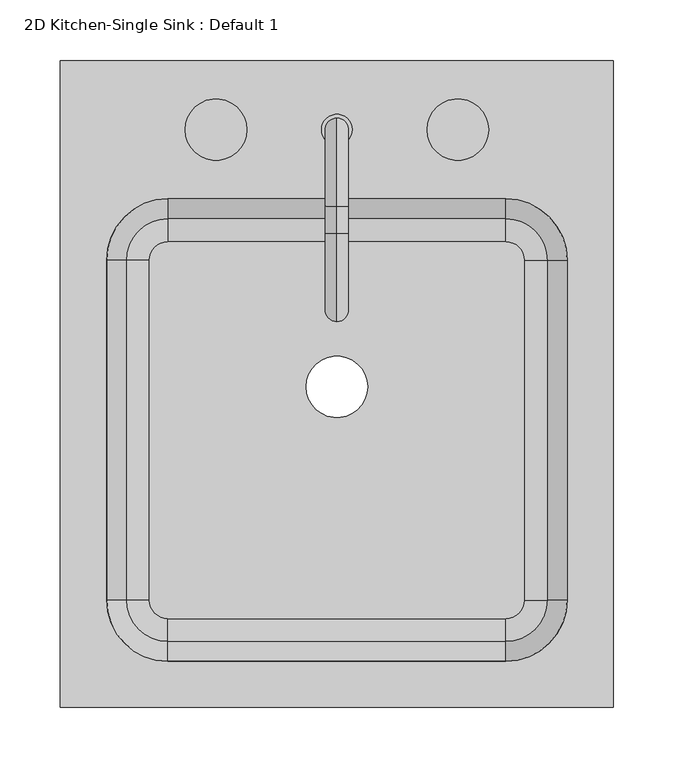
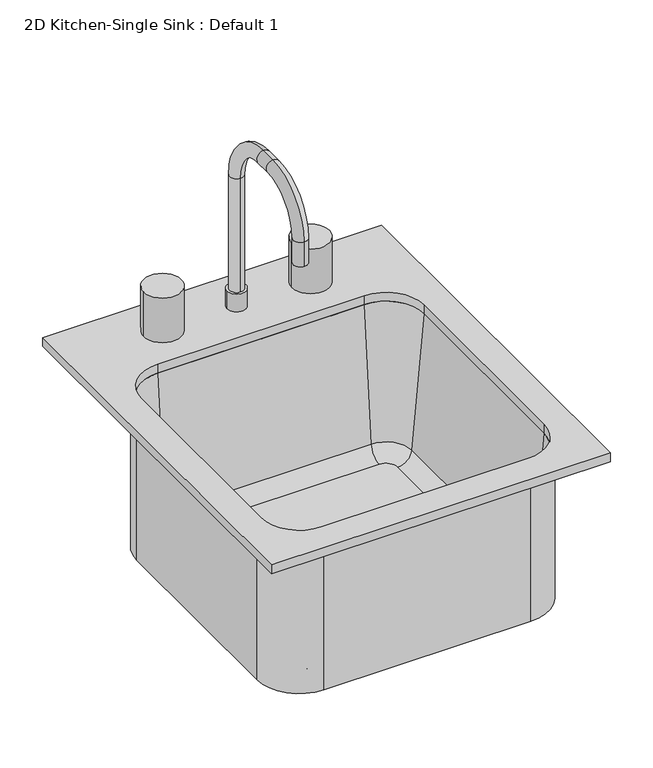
"""IFC4 building model written with IfcOpenShell, lengths in millimetres: flow terminal geometry, 2D Kitchen-Single Sink : Default 1."""

from ifc_helpers import new_model, si_unit, point, frame, frame_2d, origin, place, context, project, spatial, polyline, circle_curve, ellipse_curve, trimmed, segment, composite_curve, outline, extrude, source, transform, mapped, element, save
from ifc_brep_helpers import plane_surface, cylinder_surface, revolved_surface, advanced_brep


def flow_terminal_2d_kitchen_single_sink_default_1_6e0e1d67(model_context):
    return source(origin(), model_context, "Body", "SolidModel", [
        advanced_brep(
        [(212.5392406, 104.7454011, 546.1), (155.3892406, 161.8954011, 546.1), (155.3892406, 161.8954011, 762.0), (212.5392406, 104.7454011, 762.0), (212.5392406, -176.2545989, 546.1), (155.3892406, -233.4045989, 546.1), (-124.0107594, -233.4045989, 546.1), (-181.1607594, -176.2545989, 546.1), (-181.1607594, 104.7454011, 546.1), (-124.0107594, 161.8954011, 546.1), (-9.7107594, 0.0, 546.1), (41.0892406, 0.0, 546.1), (170.6776588, 104.7454011, 555.625), (155.3892406, 120.0338193, 555.625), (-124.0107594, 120.0338193, 555.625), (-139.2991776, 104.7454011, 555.625), (-139.2991776, -176.2545989, 555.625), (-124.0107594, -191.5430171, 555.625), (155.3892406, -191.5430171, 555.625), (170.6776588, -176.2545989, 555.625), (-9.7107594, 0.0, 555.625), (41.0892406, 0.0, 555.625), (189.6551678, 104.7454011, 573.0146831), (155.3892406, 139.0113283, 573.0146831), (206.1892406, 104.7454011, 762.0), (155.3892406, 155.5454011, 762.0), (212.5392406, -176.2545989, 762.0), (189.6551678, -176.2545989, 573.0146831), (206.1892406, -176.2545989, 762.0), (155.3892406, -233.4045989, 762.0), (155.3892406, -210.5205261, 573.0146831), (155.3892406, -227.0545989, 762.0), (-124.0107594, -233.4045989, 762.0), (-124.0107594, -210.5205261, 573.0146831), (-124.0107594, -227.0545989, 762.0), (-181.1607594, -176.2545989, 762.0), (-158.2766866, -176.2545989, 573.0146831), (-174.8107594, -176.2545989, 762.0), (-181.1607594, 104.7454011, 762.0), (-158.2766866, 104.7454011, 573.0146831), (-174.8107594, 104.7454011, 762.0), (-124.0107594, 161.8954011, 762.0), (-124.0107594, 139.0113283, 573.0146831), (-124.0107594, 155.5454011, 762.0)],
        [
            (0, 1, circle_curve(frame((155.3892406, 104.7454011, 546.1), z_axis=(0.0, 0.0, 1.0), x_axis=(0.0, 1.0, 0.0)), 57.15)),
            (1, 2),
            (2, 3, circle_curve(frame((155.3892406, 104.7454011, 762.0), z_axis=(0.0, 0.0, -1.0), x_axis=(0.0, 1.0, 0.0)), 57.15)),
            (3, 0),
            (0, 4),
            (4, 5, circle_curve(frame((155.3892406, -176.2545989, 546.1), z_axis=(0.0, 0.0, -1.0), x_axis=(1.0, 0.0, 0.0)), 57.15)),
            (5, 6),
            (6, 7, circle_curve(frame((-124.0107594, -176.2545989, 546.1), z_axis=(0.0, 0.0, -1.0), x_axis=(0.0, -1.0, 0.0)), 57.15)),
            (7, 8),
            (8, 9, circle_curve(frame((-124.0107594, 104.7454011, 546.1), z_axis=(0.0, 0.0, -1.0), x_axis=(-1.0, 0.0, 0.0)), 57.15)),
            (9, 1),
            (10, 11, circle_curve(frame((15.6892406, 0.0, 546.1), z_axis=(0.0, 0.0, 1.0), x_axis=(1.0, 0.0, 0.0)), 25.4)),
            (11, 10, circle_curve(frame((15.6892406, 0.0, 546.1), z_axis=(0.0, 0.0, 1.0), x_axis=(1.0, 0.0, 0.0)), 25.4)),
            (12, 13, circle_curve(frame((155.3892406, 104.7454011, 555.625), z_axis=(0.0, 0.0, 1.0), x_axis=(0.0, 1.0, 0.0)), 15.2884182)),
            (13, 14),
            (14, 15, circle_curve(frame((-124.0107594, 104.7454011, 555.625), z_axis=(0.0, 0.0, 1.0), x_axis=(-1.0, 0.0, 0.0)), 15.2884182)),
            (15, 16),
            (16, 17, circle_curve(frame((-124.0107594, -176.2545989, 555.625), z_axis=(0.0, 0.0, 1.0), x_axis=(0.0, -1.0, 0.0)), 15.2884182)),
            (17, 18),
            (18, 19, circle_curve(frame((155.3892406, -176.2545989, 555.625), z_axis=(0.0, 0.0, 1.0), x_axis=(1.0, 0.0, 0.0)), 15.2884182)),
            (19, 12),
            (20, 21, circle_curve(frame((15.6892406, 0.0, 555.625), z_axis=(0.0, 0.0, -1.0), x_axis=(1.0, 0.0, 0.0)), 25.4)),
            (21, 20, circle_curve(frame((15.6892406, 0.0, 555.625), z_axis=(0.0, 0.0, -1.0), x_axis=(1.0, 0.0, 0.0)), 25.4)),
            (12, 22, circle_curve(frame((170.6776588, 104.7454011, 574.675), z_axis=(0.0, -1.0, 0.0), x_axis=(1.0, 0.0, 0.0)), 19.05)),
            (22, 23, circle_curve(frame((155.3892406, 104.7454011, 573.0146831), z_axis=(0.0, 0.0, 1.0), x_axis=(0.0, 1.0, 0.0)), 34.2659272)),
            (23, 13, circle_curve(frame((155.3892406, 120.0338193, 574.675), z_axis=(-1.0, 0.0, 0.0), x_axis=(0.0, 1.0, 0.0)), 19.05)),
            (22, 24),
            (24, 25, circle_curve(frame((155.3892406, 104.7454011, 762.0), z_axis=(0.0, 0.0, 1.0), x_axis=(0.0, 1.0, 0.0)), 50.8)),
            (25, 23),
            (2, 25),
            (24, 3),
            (3, 26),
            (26, 4),
            (19, 27, circle_curve(frame((170.6776588, -176.2545989, 574.675), z_axis=(0.0, -1.0, 0.0), x_axis=(1.0, 0.0, 0.0)), 19.05)),
            (27, 22),
            (27, 28),
            (28, 24),
            (28, 26),
            (26, 29, circle_curve(frame((155.3892406, -176.2545989, 762.0), z_axis=(0.0, 0.0, -1.0), x_axis=(1.0, 0.0, 0.0)), 57.15)),
            (29, 5),
            (18, 30, circle_curve(frame((155.3892406, -191.5430171, 574.675), z_axis=(-1.0, 0.0, 0.0), x_axis=(0.0, -1.0, 0.0)), 19.05)),
            (30, 27, circle_curve(frame((155.3892406, -176.2545989, 573.0146831), z_axis=(0.0, 0.0, 1.0), x_axis=(1.0, 0.0, 0.0)), 34.2659272)),
            (30, 31),
            (31, 28, circle_curve(frame((155.3892406, -176.2545989, 762.0), z_axis=(0.0, 0.0, 1.0), x_axis=(1.0, 0.0, 0.0)), 50.8)),
            (31, 29),
            (29, 32),
            (32, 6),
            (17, 33, circle_curve(frame((-124.0107594, -191.5430171, 574.675), z_axis=(-1.0, 0.0, 0.0), x_axis=(0.0, -1.0, 0.0)), 19.05)),
            (33, 30),
            (33, 34),
            (34, 31),
            (34, 32),
            (32, 35, circle_curve(frame((-124.0107594, -176.2545989, 762.0), z_axis=(0.0, 0.0, -1.0), x_axis=(0.0, -1.0, 0.0)), 57.15)),
            (35, 7),
            (16, 36, circle_curve(frame((-139.2991776, -176.2545989, 574.675), z_axis=(0.0, 1.0, 0.0), x_axis=(-1.0, 0.0, 0.0)), 19.05)),
            (36, 33, circle_curve(frame((-124.0107594, -176.2545989, 573.0146831), z_axis=(0.0, 0.0, 1.0), x_axis=(0.0, -1.0, 0.0)), 34.2659272)),
            (36, 37),
            (37, 34, circle_curve(frame((-124.0107594, -176.2545989, 762.0), z_axis=(0.0, 0.0, 1.0), x_axis=(0.0, -1.0, 0.0)), 50.8)),
            (37, 35),
            (35, 38),
            (38, 8),
            (15, 39, circle_curve(frame((-139.2991776, 104.7454011, 574.675), z_axis=(0.0, 1.0, 0.0), x_axis=(-1.0, 0.0, 0.0)), 19.05)),
            (39, 36),
            (39, 40),
            (40, 37),
            (40, 38),
            (38, 41, circle_curve(frame((-124.0107594, 104.7454011, 762.0), z_axis=(0.0, 0.0, -1.0), x_axis=(-1.0, 0.0, 0.0)), 57.15)),
            (41, 9),
            (14, 42, circle_curve(frame((-124.0107594, 120.0338193, 574.675), z_axis=(1.0, 0.0, 0.0), x_axis=(0.0, 1.0, 0.0)), 19.05)),
            (42, 39, circle_curve(frame((-124.0107594, 104.7454011, 573.0146831), z_axis=(0.0, 0.0, 1.0), x_axis=(-1.0, 0.0, 0.0)), 34.2659272)),
            (42, 43),
            (43, 40, circle_curve(frame((-124.0107594, 104.7454011, 762.0), z_axis=(0.0, 0.0, 1.0), x_axis=(-1.0, 0.0, 0.0)), 50.8)),
            (43, 41),
            (41, 2),
            (23, 42),
            (25, 43),
            (20, 10),
            (11, 21),
        ],
        [
            cylinder_surface(frame((155.3892406, 104.7454011, 0.0), z_axis=(0.0, 0.0, -1.0), x_axis=(0.0, 1.0, 0.0)), 57.15),
            plane_surface(frame((155.3892406, 104.7454011, 546.1), z_axis=(0.0, 0.0, -1.0), x_axis=(0.0, 1.0, 0.0))),
            plane_surface(frame((155.3892406, 104.7454011, 555.625), z_axis=(0.0, 0.0, 1.0), x_axis=(0.0, 1.0, 0.0))),
            revolved_surface(trimmed(ellipse_curve(frame((155.3892406, 120.0338193, 574.675), z_axis=(1.0, 0.0, 0.0), x_axis=(0.0, 1.0, 0.0)), 19.05, 19.05), [point((155.3892406, 120.0338193, 555.625))], [point((155.3892406, 139.0113283, 573.0146831))], True, "CARTESIAN"), (155.3892406, 104.7454011, 0.0), (0.0, 0.0, -1.0)),
            revolved_surface(polyline([(155.3892406, 139.0113283, 573.0146831), (155.3892406, 155.5454011, 762.0)]), (155.3892406, 104.7454011, 0.0), (0.0, 0.0, -1.0)),
            plane_surface(frame((155.3892406, 104.7454011, 762.0), z_axis=(0.0, 0.0, 1.0), x_axis=(0.0, 1.0, 0.0))),
            plane_surface(frame((212.5392406, 104.7454011, 762.0), z_axis=(1.0, 0.0, 0.0), x_axis=(0.0, -1.0, 0.0))),
            revolved_surface(polyline([(189.7276588, -176.25459890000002, 574.675), (189.7276588, 104.7454011, 574.675)]), (170.6776588, 104.7454011, 574.675), (0.0, -1.0, 0.0)),
            plane_surface(frame((189.6551678, 104.7454011, 573.0146831), z_axis=(-0.9961946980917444, 0.0, 0.08715574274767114), x_axis=(0.0, -1.0, 0.0))),
            plane_surface(frame((206.1892406, 104.7454011, 762.0), z_axis=(0.0, 0.0, 1.0), x_axis=(0.0, -1.0, 0.0))),
            cylinder_surface(frame((155.3892406, -176.2545989, 0.0), z_axis=(0.0, 0.0, -1.0), x_axis=(1.0, 0.0, 0.0)), 57.15),
            revolved_surface(trimmed(ellipse_curve(frame((170.6776588, -176.2545989, 574.675), z_axis=(0.0, -1.0, 0.0), x_axis=(1.0, 0.0, 0.0)), 19.05, 19.05), [point((170.6776588, -176.2545989, 555.625))], [point((189.6551678, -176.2545989, 573.0146831))], True, "CARTESIAN"), (155.3892406, -176.2545989, 0.0), (0.0, 0.0, -1.0)),
            revolved_surface(polyline([(189.6551678, -176.2545989, 573.0146831), (206.1892406, -176.2545989, 762.0)]), (155.3892406, -176.2545989, 0.0), (0.0, 0.0, -1.0)),
            plane_surface(frame((155.3892406, -176.2545989, 762.0), z_axis=(0.0, 0.0, 1.0), x_axis=(1.0, 0.0, 0.0))),
            plane_surface(frame((155.3892406, -233.4045989, 762.0), z_axis=(0.0, -1.0, 0.0), x_axis=(-1.0, 0.0, 0.0))),
            revolved_surface(polyline([(-124.01075939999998, -210.5930171, 574.675), (155.3892406, -210.5930171, 574.675)]), (155.3892406, -191.5430171, 574.675), (-1.0, 0.0, 0.0)),
            plane_surface(frame((155.3892406, -210.5205261, 573.0146831), z_axis=(0.0, 0.9961946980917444, 0.08715574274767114), x_axis=(-1.0, 0.0, 0.0))),
            plane_surface(frame((155.3892406, -227.0545989, 762.0), z_axis=(0.0, 0.0, 1.0), x_axis=(-1.0, 0.0, 0.0))),
            cylinder_surface(frame((-124.0107594, -176.2545989, 0.0), z_axis=(0.0, 0.0, -1.0), x_axis=(0.0, -1.0, 0.0)), 57.15),
            revolved_surface(trimmed(ellipse_curve(frame((-124.0107594, -191.5430171, 574.675), z_axis=(-1.0, 0.0, 0.0), x_axis=(0.0, -1.0, 0.0)), 19.05, 19.05), [point((-124.0107594, -191.5430171, 555.625))], [point((-124.0107594, -210.5205261, 573.0146831))], True, "CARTESIAN"), (-124.0107594, -176.2545989, 0.0), (0.0, 0.0, -1.0)),
            revolved_surface(polyline([(-124.0107594, -210.5205261, 573.0146831), (-124.0107594, -227.0545989, 762.0)]), (-124.0107594, -176.2545989, 0.0), (0.0, 0.0, -1.0)),
            plane_surface(frame((-124.0107594, -176.2545989, 762.0), z_axis=(0.0, 0.0, 1.0), x_axis=(0.0, -1.0, 0.0))),
            plane_surface(frame((-181.1607594, -176.2545989, 762.0), z_axis=(-1.0, 0.0, 0.0), x_axis=(0.0, 1.0, 0.0))),
            revolved_surface(polyline([(-158.34917760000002, 104.74540110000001, 574.675), (-158.34917760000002, -176.2545989, 574.675)]), (-139.2991776, -176.2545989, 574.675), (0.0, 1.0, 0.0)),
            plane_surface(frame((-158.2766866, -176.2545989, 573.0146831), z_axis=(0.9961946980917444, 0.0, 0.08715574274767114), x_axis=(0.0, 1.0, 0.0))),
            plane_surface(frame((-174.8107594, -176.2545989, 762.0), z_axis=(0.0, 0.0, 1.0), x_axis=(0.0, 1.0, 0.0))),
            cylinder_surface(frame((-124.0107594, 104.7454011, 0.0), z_axis=(0.0, 0.0, -1.0), x_axis=(-1.0, 0.0, 0.0)), 57.15),
            revolved_surface(trimmed(ellipse_curve(frame((-139.2991776, 104.7454011, 574.675), z_axis=(0.0, 1.0, 0.0), x_axis=(-1.0, 0.0, 0.0)), 19.05, 19.05), [point((-139.2991776, 104.7454011, 555.625))], [point((-158.2766866, 104.7454011, 573.0146831))], True, "CARTESIAN"), (-124.0107594, 104.7454011, 0.0), (0.0, 0.0, -1.0)),
            revolved_surface(polyline([(-158.2766866, 104.7454011, 573.0146831), (-174.8107594, 104.7454011, 762.0)]), (-124.0107594, 104.7454011, 0.0), (0.0, 0.0, -1.0)),
            plane_surface(frame((-124.0107594, 104.7454011, 762.0), z_axis=(0.0, 0.0, 1.0), x_axis=(-1.0, 0.0, 0.0))),
            plane_surface(frame((-124.0107594, 161.8954011, 762.0), z_axis=(0.0, 1.0, 0.0), x_axis=(1.0, 0.0, 0.0))),
            revolved_surface(polyline([(155.3892406, 139.08381930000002, 574.675), (-124.0107594, 139.08381930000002, 574.675)]), (-124.0107594, 120.0338193, 574.675), (1.0, 0.0, 0.0)),
            plane_surface(frame((-124.0107594, 139.0113283, 573.0146831), z_axis=(0.0, -0.9961946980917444, 0.08715574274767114), x_axis=(1.0, 0.0, 0.0))),
            plane_surface(frame((-124.0107594, 155.5454011, 762.0), z_axis=(0.0, 0.0, 1.0), x_axis=(1.0, 0.0, 0.0))),
            revolved_surface(polyline([(41.0892406, 0.0, 546.1), (41.0892406, 0.0, 555.625)]), (15.6892406, 0.0, 0.0), (0.0, 0.0, -1.0)),
        ],
        [
            (0, [[1, 2, 3, 4]]),
            (1, [[-1, 5, 6, 7, 8, 9, 10, 11], [12, 13]]),
            (2, [[14, 15, 16, 17, 18, 19, 20, 21], [22, 23]]),
            (3, [[-14, 24, 25, 26]]),
            (4, [[-25, 27, 28, 29]]),
            (5, [[-3, 30, -28, 31]]),
            (6, [[-4, 32, 33, -5]]),
            (7, [[-24, -21, 34, 35]]),
            (8, [[-27, -35, 36, 37]]),
            (9, [[-31, -37, 38, -32]]),
            (10, [[-33, 39, 40, -6]]),
            (11, [[-34, -20, 41, 42]]),
            (12, [[-36, -42, 43, 44]]),
            (13, [[-38, -44, 45, -39]]),
            (14, [[-40, 46, 47, -7]]),
            (15, [[-41, -19, 48, 49]]),
            (16, [[-43, -49, 50, 51]]),
            (17, [[-45, -51, 52, -46]]),
            (18, [[-47, 53, 54, -8]]),
            (19, [[-48, -18, 55, 56]]),
            (20, [[-50, -56, 57, 58]]),
            (21, [[-52, -58, 59, -53]]),
            (22, [[-54, 60, 61, -9]]),
            (23, [[-55, -17, 62, 63]]),
            (24, [[-57, -63, 64, 65]]),
            (25, [[-59, -65, 66, -60]]),
            (26, [[-61, 67, 68, -10]]),
            (27, [[-62, -16, 69, 70]]),
            (28, [[-64, -70, 71, 72]]),
            (29, [[-66, -72, 73, -67]]),
            (30, [[-2, -11, -68, 74]]),
            (31, [[-26, 75, -69, -15]]),
            (32, [[-29, 76, -71, -75]]),
            (33, [[-30, -74, -73, -76]]),
            (34, [[-22, 77, -13, 78]]),
            (34, [[-23, -78, -12, -77]]),
        ],
    ),
        advanced_brep(
        [(2.9892406, 212.6954011, 800.1), (28.3892406, 212.6954011, 800.1), (15.6892406, 222.2204011, 800.1), (15.6892406, 203.1704011, 800.1), (2.9892406, 212.6954011, 774.7), (28.3892406, 212.6954011, 774.7), (15.6892406, 222.2204011, 962.025), (15.6892406, 203.1704011, 962.025), (15.6892406, 149.1954011, 1035.05), (15.6892406, 149.1954011, 1016.0), (15.6892406, 126.9704011, 1035.05), (15.6892406, 126.9704011, 1016.0), (15.6892406, 53.9454011, 962.025), (15.6892406, 72.9954011, 962.025), (15.6892406, 53.9454011, 927.1), (15.6892406, 72.9954011, 927.1)],
        [
            (0, 1, circle_curve(frame((15.6892406, 212.6954011, 800.1), z_axis=(0.0, 0.0, 1.0), x_axis=(1.0, 0.0, 0.0)), 12.7)),
            (1, 0, circle_curve(frame((15.6892406, 212.6954011, 800.1), z_axis=(0.0, 0.0, 1.0), x_axis=(1.0, 0.0, 0.0)), 12.7)),
            (2, 3, circle_curve(frame((15.6892406, 212.6954011, 800.1), z_axis=(0.0, 0.0, -1.0), x_axis=(0.0, -1.0, 0.0)), 9.525)),
            (3, 2, circle_curve(frame((15.6892406, 212.6954011, 800.1), z_axis=(0.0, 0.0, -1.0), x_axis=(0.0, -1.0, 0.0)), 9.525)),
            (4, 5, circle_curve(frame((15.6892406, 212.6954011, 774.7), z_axis=(0.0, 0.0, -1.0), x_axis=(1.0, 0.0, 0.0)), 12.7)),
            (5, 4, circle_curve(frame((15.6892406, 212.6954011, 774.7), z_axis=(0.0, 0.0, -1.0), x_axis=(1.0, 0.0, 0.0)), 12.7)),
            (0, 4),
            (5, 1),
            (6, 7, circle_curve(frame((15.6892406, 212.6954011, 962.025), z_axis=(0.0, 0.0, -1.0), x_axis=(0.0, -1.0, 0.0)), 9.525)),
            (7, 3),
            (2, 6),
            (7, 6, circle_curve(frame((15.6892406, 212.6954011, 962.025), z_axis=(0.0, 0.0, -1.0), x_axis=(0.0, -1.0, 0.0)), 9.525)),
            (6, 8, circle_curve(frame((15.6892406, 149.1954011, 962.025), z_axis=(1.0, 0.0, 0.0), x_axis=(0.0, 1.0, 0.0)), 73.025)),
            (8, 9, circle_curve(frame((15.6892406, 149.1954011, 1025.525), z_axis=(0.0, 1.0, 0.0), x_axis=(0.0, 0.0, -1.0)), 9.525)),
            (9, 7, circle_curve(frame((15.6892406, 149.1954011, 962.025), z_axis=(-1.0, 0.0, 0.0), x_axis=(0.0, 1.0, 0.0)), 53.975)),
            (9, 8, circle_curve(frame((15.6892406, 149.1954011, 1025.525), z_axis=(0.0, 1.0, 0.0), x_axis=(0.0, 0.0, -1.0)), 9.525)),
            (8, 10),
            (10, 11, circle_curve(frame((15.6892406, 126.9704011, 1025.525), z_axis=(0.0, 1.0, 0.0), x_axis=(0.0, 0.0, -1.0)), 9.525)),
            (11, 9),
            (11, 10, circle_curve(frame((15.6892406, 126.9704011, 1025.525), z_axis=(0.0, 1.0, 0.0), x_axis=(0.0, 0.0, -1.0)), 9.525)),
            (10, 12, circle_curve(frame((15.6892406, 126.9704011, 962.025), z_axis=(1.0, 0.0, 0.0), x_axis=(0.0, 0.0, 1.0)), 73.025)),
            (12, 13, circle_curve(frame((15.6892406, 63.4704011, 962.025), z_axis=(0.0, 0.0, 1.0), x_axis=(0.0, 1.0, 0.0)), 9.525)),
            (13, 11, circle_curve(frame((15.6892406, 126.9704011, 962.025), z_axis=(-1.0, 0.0, 0.0), x_axis=(0.0, 0.0, 1.0)), 53.975)),
            (13, 12, circle_curve(frame((15.6892406, 63.4704011, 962.025), z_axis=(0.0, 0.0, 1.0), x_axis=(0.0, 1.0, 0.0)), 9.525)),
            (14, 15, circle_curve(frame((15.6892406, 63.4704011, 927.1), z_axis=(0.0, 0.0, -1.0), x_axis=(0.0, 1.0, 0.0)), 9.525)),
            (15, 14, circle_curve(frame((15.6892406, 63.4704011, 927.1), z_axis=(0.0, 0.0, -1.0), x_axis=(0.0, 1.0, 0.0)), 9.525)),
            (12, 14),
            (15, 13),
        ],
        [
            plane_surface(frame((28.3892406, 212.6954011, 800.1), z_axis=(0.0, 0.0, 1.0), x_axis=(0.0, 1.0, 0.0))),
            plane_surface(frame((28.3892406, 212.6954011, 774.7), z_axis=(0.0, 0.0, -1.0), x_axis=(0.0, -1.0, 0.0))),
            cylinder_surface(frame((15.6892406, 212.6954011, 774.7), z_axis=(0.0, 0.0, 1.0), x_axis=(1.0, 0.0, 0.0)), 12.7),
            cylinder_surface(frame((15.6892406, 212.6954011, 774.7), z_axis=(0.0, 0.0, -1.0), x_axis=(0.0, -1.0, 0.0)), 9.525),
            revolved_surface(trimmed(ellipse_curve(frame((15.6892406, 212.6954011, 962.025), z_axis=(0.0, 0.0, -1.0), x_axis=(0.0, -1.0, 0.0)), 9.525, 9.525), [point((15.6892406, 222.2204011, 962.025))], [point((15.6892406, 203.1704011, 962.025))], True, "CARTESIAN"), (15.6892406, 149.1954011, 962.025), (1.0, 0.0, 0.0)),
            revolved_surface(trimmed(ellipse_curve(frame((15.6892406, 212.6954011, 962.025), z_axis=(0.0, 0.0, -1.0), x_axis=(0.0, -1.0, 0.0)), 9.525, 9.525), [point((15.6892406, 203.1704011, 962.025))], [point((15.6892406, 222.2204011, 962.025))], True, "CARTESIAN"), (15.6892406, 149.1954011, 962.025), (1.0, 0.0, 0.0)),
            cylinder_surface(frame((15.6892406, 149.1954011, 1025.525), z_axis=(0.0, 1.0, 0.0), x_axis=(0.0, 0.0, -1.0)), 9.525),
            revolved_surface(trimmed(ellipse_curve(frame((15.6892406, 126.9704011, 1025.525), z_axis=(0.0, 1.0, 0.0), x_axis=(0.0, 0.0, -1.0)), 9.525, 9.525), [point((15.6892406, 126.9704011, 1035.05))], [point((15.6892406, 126.9704011, 1016.0))], True, "CARTESIAN"), (15.6892406, 126.9704011, 962.025), (1.0, 0.0, 0.0)),
            revolved_surface(trimmed(ellipse_curve(frame((15.6892406, 126.9704011, 1025.525), z_axis=(0.0, 1.0, 0.0), x_axis=(0.0, 0.0, -1.0)), 9.525, 9.525), [point((15.6892406, 126.9704011, 1016.0))], [point((15.6892406, 126.9704011, 1035.05))], True, "CARTESIAN"), (15.6892406, 126.9704011, 962.025), (1.0, 0.0, 0.0)),
            plane_surface(frame((15.6892406, 53.9454011, 927.1), z_axis=(0.0, 0.0, -1.0), x_axis=(-1.0, 0.0, 0.0))),
            cylinder_surface(frame((15.6892406, 63.4704011, 962.025), z_axis=(0.0, 0.0, 1.0), x_axis=(0.0, 1.0, 0.0)), 9.525),
        ],
        [
            (0, [[1, 2], [3, 4]]),
            (1, [[5, 6]]),
            (2, [[-1, 7, -6, 8]]),
            (2, [[-2, -8, -5, -7]]),
            (3, [[9, 10, -3, 11]]),
            (3, [[12, -11, -4, -10]]),
            (4, [[-9, 13, 14, 15]]),
            (5, [[-12, -15, 16, -13]]),
            (6, [[-14, 17, 18, 19]]),
            (6, [[-16, -19, 20, -17]]),
            (7, [[-18, 21, 22, 23]]),
            (8, [[-20, -23, 24, -21]]),
            (9, [[25, 26]]),
            (10, [[-22, 27, -26, 28]]),
            (10, [[-24, -28, -25, -27]]),
        ],
    ),
        extrude(outline(composite_curve([segment(trimmed(circle_curve(frame_2d((-84.3107594, 212.6954011)), 25.4), [point((-109.7107594, 212.6954011))], [point((-58.9107594, 212.6954011))], False, "CARTESIAN"), True, "CONTINUOUS"), segment(trimmed(circle_curve(frame_2d((-84.3107594, 212.6954011)), 25.4), [point((-58.9107594, 212.6954011))], [point((-109.7107594, 212.6954011))], False, "CARTESIAN"), True, "CONTINUOUS")], self_intersect=False)), frame((0.0, 0.0, 774.7), z_axis=(0.0, 0.0, 1.0), x_axis=(1.0, 0.0, 0.0)), (0.0, 0.0, 1.0), 63.5),
        extrude(outline(composite_curve([segment(trimmed(circle_curve(frame_2d((115.6892406, 212.6954011)), 25.4), [point((90.2892406, 212.6954011))], [point((141.0892406, 212.6954011))], False, "CARTESIAN"), True, "CONTINUOUS"), segment(trimmed(circle_curve(frame_2d((115.6892406, 212.6954011)), 25.4), [point((141.0892406, 212.6954011))], [point((90.2892406, 212.6954011))], False, "CARTESIAN"), True, "CONTINUOUS")], self_intersect=False)), frame((0.0, 0.0, 774.7), z_axis=(0.0, 0.0, 1.0), x_axis=(1.0, 0.0, 0.0)), (0.0, 0.0, 1.0), 63.5),
        extrude(outline(polyline([(244.2892406, 269.8454011), (244.2892406, -265.1545989), (-212.9107594, -265.1545989), (-212.9107594, 269.8454011), (244.2892406, 269.8454011)]), holes=[composite_curve([segment(polyline([(155.3892406, 155.5454011), (-124.0107594, 155.5454011)]), True, "CONTINUOUS"), segment(trimmed(circle_curve(frame_2d((-124.0107594, 104.7454011)), 50.8), [point((-124.0107594, 155.5454011))], [point((-174.8107594, 104.7454011))], True, "CARTESIAN"), True, "CONTINUOUS"), segment(polyline([(-174.8107594, 104.7454011), (-174.8107594, -176.2545989)]), True, "CONTINUOUS"), segment(trimmed(circle_curve(frame_2d((-124.0107594, -176.2545989)), 50.8), [point((-174.8107594, -176.2545989))], [point((-124.0107594, -227.0545989))], True, "CARTESIAN"), True, "CONTINUOUS"), segment(polyline([(-124.0107594, -227.0545989), (155.3892406, -227.0545989)]), True, "CONTINUOUS"), segment(trimmed(circle_curve(frame_2d((155.3892406, -176.2545989)), 50.8), [point((155.3892406, -227.0545989))], [point((206.1892406, -176.2545989))], True, "CARTESIAN"), True, "CONTINUOUS"), segment(polyline([(206.1892406, -176.2545989), (206.1892406, 104.7454011)]), True, "CONTINUOUS"), segment(trimmed(circle_curve(frame_2d((155.3892406, 104.7454011)), 50.8), [point((206.1892406, 104.7454011))], [point((155.3892406, 155.5454011))], True, "CARTESIAN"), True, "CONTINUOUS")], self_intersect=False)]), frame((0.0, 0.0, 762.0), z_axis=(0.0, 0.0, 1.0), x_axis=(1.0, 0.0, 0.0)), (0.0, 0.0, 1.0), 12.7),
    ])


if __name__ == "__main__":
    model = new_model("IFC4")
    model_context = context("Model", 3, world=origin())
    ifc_project = project(units=[si_unit("LENGTHUNIT", "METRE", prefix="MILLI")], contexts=[model_context])
    site = spatial("IfcSite", under=ifc_project)
    building = spatial("IfcBuilding", under=site)
    placement = place(None, origin())
    flow_terminal_2d_kitchen_single_sink_default_1_shape = flow_terminal_2d_kitchen_single_sink_default_1_6e0e1d67(model_context)
    element("IfcFlowTerminal", 1, ObjectType="2D Kitchen-Single Sink : Default 1", at=placement, inside=building, context=model_context, shape_type="MappedRepresentation", body=[
        mapped(flow_terminal_2d_kitchen_single_sink_default_1_shape, transform((0.0, 0.0, 0.0), x_axis=(1.0, 0.0, 0.0), y_axis=(0.0, 1.0, 0.0), z_axis=(0.0, 0.0, 1.0))),
    ])
    save(model, "model.ifc")
